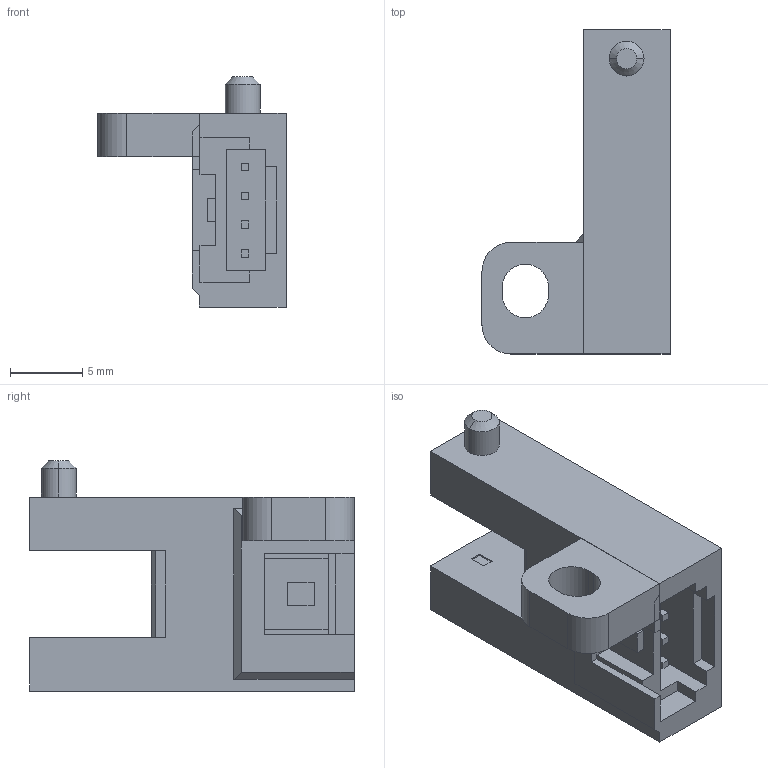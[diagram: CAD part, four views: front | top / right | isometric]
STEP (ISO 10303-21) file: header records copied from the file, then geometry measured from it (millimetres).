
FILE_DESCRIPTION (( 'STEP AP203' ), '1' );
FILE_NAME ('pm-r65.STEP', '2015-08-07T08:12:28', ( '' ), ( '' ), 'SwSTEP 2.0', 'SolidWorks 2010', '' );
FILE_SCHEMA (( 'CONFIG_CONTROL_DESIGN' ));
Length unit declared in the file: millimetre
Products named in the file (1): pm-r65
Bounding box: 13 x 22.4 x 15.9 mm (x, y, z)
Volume: 1462.6 mm3; surface area: 1429.3 mm2
Topology: 2 solids, 2 shells, 112 faces, 290 edges, 192 vertices
Faces by surface type: plane 104, cylinder 6, cone 2
Entity records: 3435 total; most frequent: CARTESIAN_POINT 595, ORIENTED_EDGE 580, DIRECTION 530, EDGE_CURVE 290, VECTOR 276, LINE 276, VERTEX_POINT 192, AXIS2_PLACEMENT_3D 127
